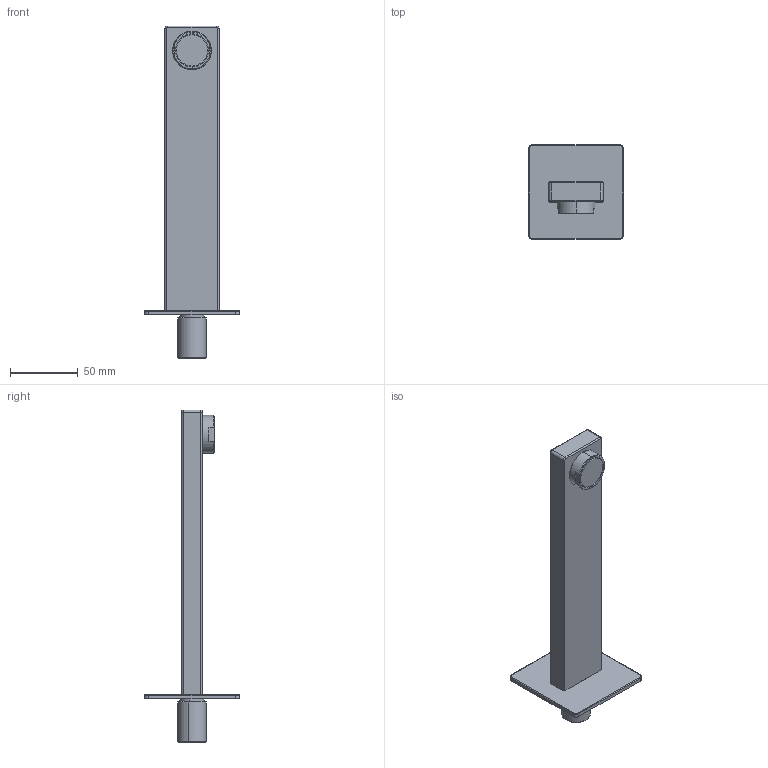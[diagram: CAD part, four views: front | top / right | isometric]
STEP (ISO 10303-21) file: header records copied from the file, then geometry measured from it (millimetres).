
FILE_DESCRIPTION (( 'STEP AP203' ), '1' );
FILE_NAME ('BVQ1.STEP', '2024-02-01T15:14:43', ( '' ), ( '' ), 'SwSTEP 2.0', 'SolidWorks 2023', '' );
FILE_SCHEMA (( 'CONFIG_CONTROL_DESIGN' ));
Length unit declared in the file: millimetre
Products named in the file (7): BVQ1; C12.00.0001; C24.1346.00.0; C13.00.0015; C25.1347.00.1; C24.2703.00; C11.15.0005
Assembly tree (7 placements, depth 2):
  BVQ1
    C24.1346.00.0
    C24.2703.00
    C25.1347.00.1
    C12.00.0001
    C11.15.0005  x2
    C13.00.0015
Bounding box: 70 x 70 x 244.8 mm (x, y, z)
Volume: 145160.8 mm3; surface area: 48806.9 mm2
Topology: 8 solids, 8 shells, 181 faces, 410 edges, 252 vertices
Faces by surface type: cylinder 68, plane 59, cone 38, torus 16
Entity records: 5782 total; most frequent: CARTESIAN_POINT 975, DIRECTION 940, ORIENTED_EDGE 784, EDGE_CURVE 392, AXIS2_PLACEMENT_3D 382, VERTEX_POINT 244, CIRCLE 199, EDGE_LOOP 196
